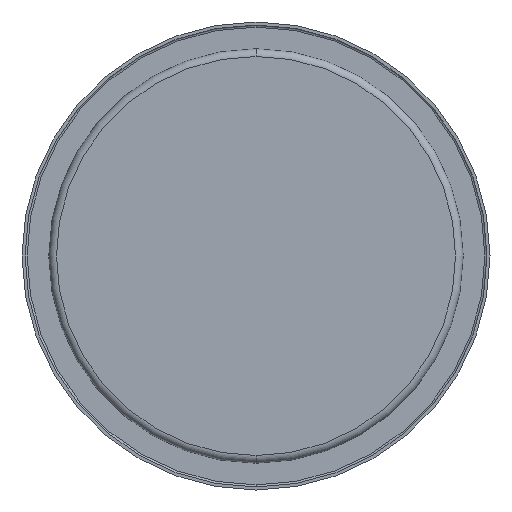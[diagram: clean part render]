
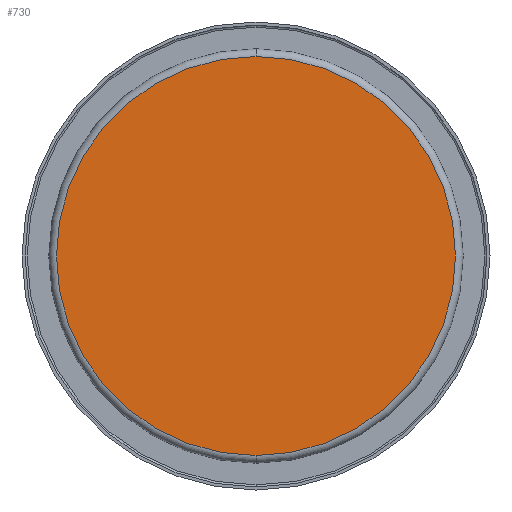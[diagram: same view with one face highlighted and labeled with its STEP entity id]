
A CAD part, front view. The second image highlights one B-rep face of the part: STEP entity #730.
In plain terms, the highlighted planar face has unit normal (0, -1, 0).
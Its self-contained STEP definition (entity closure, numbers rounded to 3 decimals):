
#7 = ORIENTED_EDGE ( 'NONE', *, *, #957, .T. ) ;
#27 = CARTESIAN_POINT ( 'NONE',  ( 0., -77., 195. ) ) ;
#30 = PLANE ( 'NONE',  #222 ) ;
#37 = CIRCLE ( 'NONE', #802, 195. ) ;
#87 = EDGE_LOOP ( 'NONE', ( #350, #7 ) ) ;
#132 = EDGE_CURVE ( 'NONE', #378, #739, #37, .T. ) ;
#222 = AXIS2_PLACEMENT_3D ( 'NONE', #1005, #1013, #284 ) ;
#250 = DIRECTION ( 'NONE',  ( 0., 0., -1. ) ) ;
#266 = DIRECTION ( 'NONE',  ( 0., -1., 0. ) ) ;
#284 = DIRECTION ( 'NONE',  ( 0., 0., -1. ) ) ;
#350 = ORIENTED_EDGE ( 'NONE', *, *, #132, .T. ) ;
#378 = VERTEX_POINT ( 'NONE', #399 ) ;
#399 = CARTESIAN_POINT ( 'NONE',  ( 0., -77., -195. ) ) ;
#506 = FACE_OUTER_BOUND ( 'NONE', #87, .T. ) ;
#590 = CARTESIAN_POINT ( 'NONE',  ( 0., -77., 0. ) ) ;
#658 = DIRECTION ( 'NONE',  ( 0., -1., 0. ) ) ;
#681 = CARTESIAN_POINT ( 'NONE',  ( 0., -77., 0. ) ) ;
#730 = ADVANCED_FACE ( 'NONE', ( #506 ), #30, .T. ) ;
#739 = VERTEX_POINT ( 'NONE', #27 ) ;
#772 = CIRCLE ( 'NONE', #1062, 195. ) ;
#802 = AXIS2_PLACEMENT_3D ( 'NONE', #681, #266, #838 ) ;
#838 = DIRECTION ( 'NONE',  ( 0., 0., -1. ) ) ;
#957 = EDGE_CURVE ( 'NONE', #739, #378, #772, .T. ) ;
#1005 = CARTESIAN_POINT ( 'NONE',  ( 0., -77., 0. ) ) ;
#1013 = DIRECTION ( 'NONE',  ( 0., -1., 0. ) ) ;
#1062 = AXIS2_PLACEMENT_3D ( 'NONE', #590, #658, #250 ) ;
